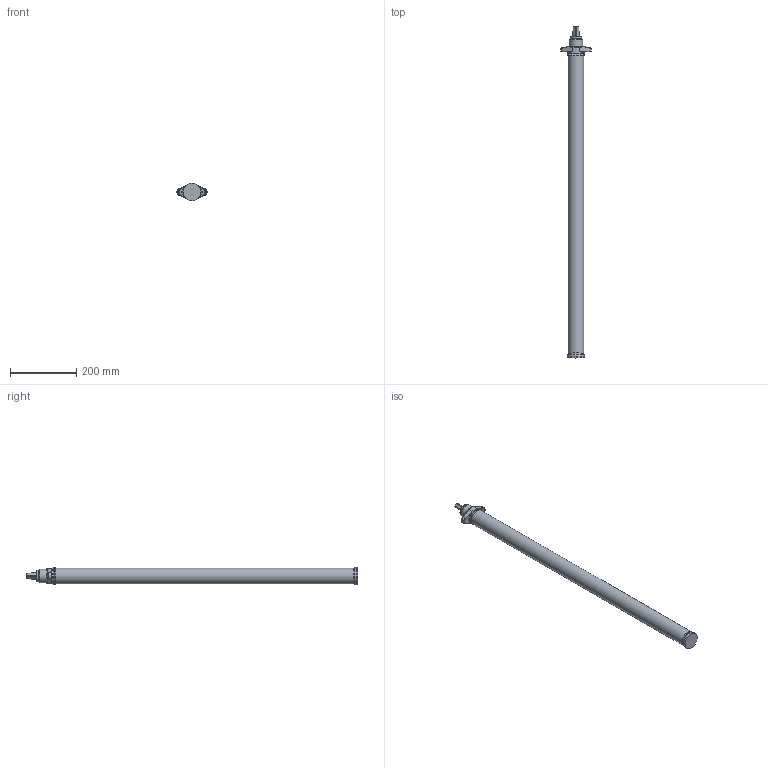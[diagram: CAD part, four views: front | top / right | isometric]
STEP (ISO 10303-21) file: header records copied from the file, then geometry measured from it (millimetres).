
FILE_DESCRIPTION(/* description */ (''),/* implementation_level */ '2;1');
FILE_NAME(/* name */ 'J:\onedrive\INVENTOR mellan skolPC och privatPC\Belos job 2022\export alla parter\9600 Garnityr för avstängning part 2.stp',/* time_stamp */ '2022-02-19T13:21:29+01:00',/* author */ ('erikb'),/* organization */ (''),/* preprocessor_version */ 'ST-DEVELOPER v18.1',/* originating_system */ 'Autodesk Inventor 2022',/* authorisation */ '');
FILE_SCHEMA (('CONFIG_CONTROL_DESIGN'));
Length unit declared in the file: millimetre
Products named in the file (1): 9600 Garnityr  för avstängning part 2
Bounding box: 91 x 1001.5 x 52 mm (x, y, z)
Volume: 1757234.6 mm3; surface area: 156572.7 mm2
Topology: 1 solids, 1 shells, 104 faces, 249 edges, 148 vertices
Faces by surface type: cylinder 34, plane 31, bspline 25, torus 9, sphere 4, cone 1
Full cylindrical faces by diameter (mm): 35 x1, 40 x1, 46 x1, 48 x2, 52 x1
Entity records: 4072 total; most frequent: CARTESIAN_POINT 1689, ORIENTED_EDGE 490, DIRECTION 463, EDGE_CURVE 245, AXIS2_PLACEMENT_3D 192, VERTEX_POINT 148, EDGE_LOOP 109, FACE_OUTER_BOUND 104
